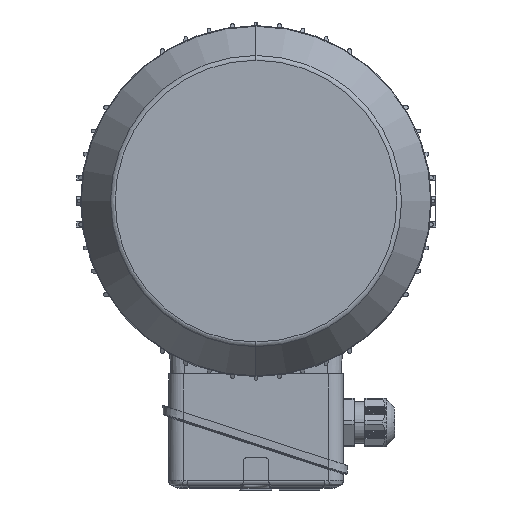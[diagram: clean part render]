
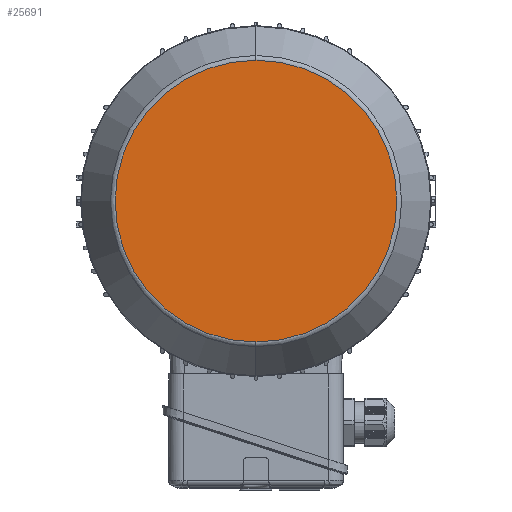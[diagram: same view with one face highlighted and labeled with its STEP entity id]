
A CAD part, left-side view. The second image highlights one B-rep face of the part: STEP entity #25691.
In plain terms, the highlighted planar face has unit normal (-1, 0, 0).
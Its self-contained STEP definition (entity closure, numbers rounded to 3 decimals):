
#407 = EDGE_CURVE ( 'NONE', #16623, #2024, #23597, .T. ) ;
#2024 = VERTEX_POINT ( 'NONE', #27152 ) ;
#3916 = DIRECTION ( 'NONE',  ( -1., 0., 0. ) ) ;
#4752 = CARTESIAN_POINT ( 'NONE',  ( -191.5, 0., 0. ) ) ;
#7664 = AXIS2_PLACEMENT_3D ( 'NONE', #18360, #34499, #14978 ) ;
#8842 = EDGE_CURVE ( 'NONE', #2024, #16623, #31487, .T. ) ;
#14707 = DIRECTION ( 'NONE',  ( 1., 0., 0. ) ) ;
#14978 = DIRECTION ( 'NONE',  ( 0., 0., -1. ) ) ;
#16157 = ORIENTED_EDGE ( 'NONE', *, *, #8842, .F. ) ;
#16623 = VERTEX_POINT ( 'NONE', #17766 ) ;
#17003 = PLANE ( 'NONE',  #36652 ) ;
#17766 = CARTESIAN_POINT ( 'NONE',  ( -191.5, 0., 78.268 ) ) ;
#17949 = DIRECTION ( 'NONE',  ( 0., 0., -1. ) ) ;
#17981 = AXIS2_PLACEMENT_3D ( 'NONE', #4752, #14707, #17949 ) ;
#18360 = CARTESIAN_POINT ( 'NONE',  ( -191.5, 0., 0. ) ) ;
#19277 = EDGE_LOOP ( 'NONE', ( #16157, #34191 ) ) ;
#23597 = CIRCLE ( 'NONE', #7664, 78.268 ) ;
#25691 = ADVANCED_FACE ( 'NONE', ( #27065 ), #17003, .T. ) ;
#27041 = CARTESIAN_POINT ( 'NONE',  ( -191.5, 0., -78.268 ) ) ;
#27065 = FACE_OUTER_BOUND ( 'NONE', #19277, .T. ) ;
#27152 = CARTESIAN_POINT ( 'NONE',  ( -191.5, 0., -78.268 ) ) ;
#31487 = CIRCLE ( 'NONE', #17981, 78.268 ) ;
#34191 = ORIENTED_EDGE ( 'NONE', *, *, #407, .F. ) ;
#34499 = DIRECTION ( 'NONE',  ( 1., 0., 0. ) ) ;
#36652 = AXIS2_PLACEMENT_3D ( 'NONE', #27041, #3916, #39670 ) ;
#39670 = DIRECTION ( 'NONE',  ( 0., 1., 0. ) ) ;
